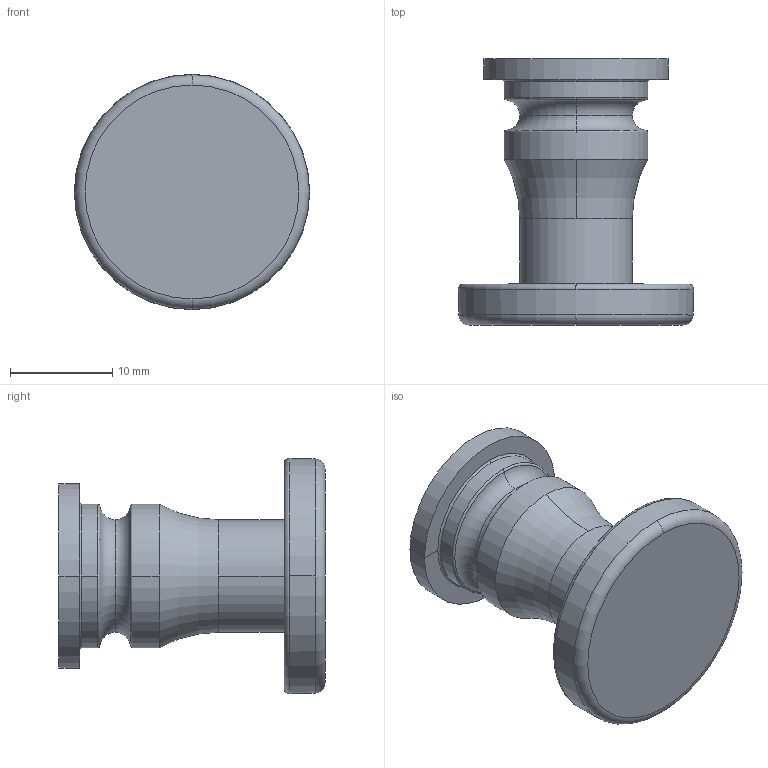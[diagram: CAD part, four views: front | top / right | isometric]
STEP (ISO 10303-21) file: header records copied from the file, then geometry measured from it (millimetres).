
FILE_DESCRIPTION( ( '' ), '1' );
FILE_NAME( 'C:/Documents and Settings/Nikhil/Desktop/Nik/Done/9132294.stp', '2013-10-23T10:52:14', ( '' ), ( '' ), ' ', ' ', ' ' );
FILE_SCHEMA( ( 'automotive_design' ) );
Length unit declared in the file: millimetre
Products named in the file (1): 1
Bounding box: 22.97 x 26 x 22.97 mm (x, y, z)
Volume: 4419.4 mm3; surface area: 2334.9 mm2
Topology: 1 solids, 1 shells, 40 faces, 98 edges, 62 vertices
Faces by surface type: torus 20, cylinder 10, cone 6, plane 4
Entity records: 2368 total; most frequent: DIRECTION 262, STYLED_ITEM 201, PRESENTATION_STYLE_ASSIGNMENT 201, CARTESIAN_POINT 201, COLOUR_RGB 201, ORIENTED_EDGE 196, AXIS2_PLACEMENT_3D 123, EDGE_CURVE 98
